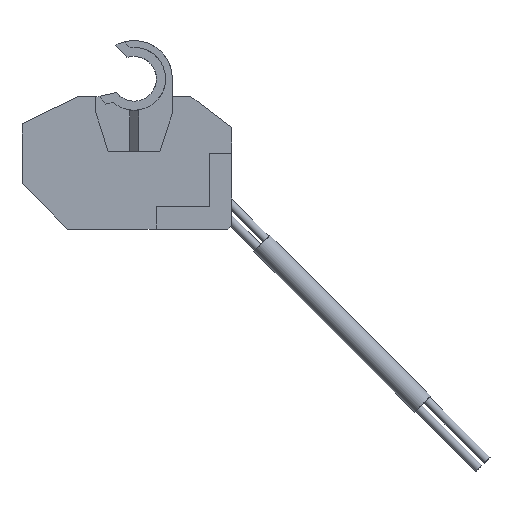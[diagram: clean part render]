
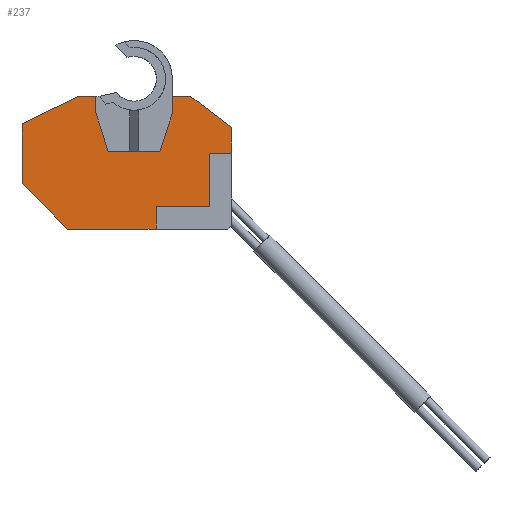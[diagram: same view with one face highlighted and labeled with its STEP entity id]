
A CAD part, left-side view. The second image highlights one B-rep face of the part: STEP entity #237.
In plain terms, the highlighted planar face has unit normal (-1, 0, 0).
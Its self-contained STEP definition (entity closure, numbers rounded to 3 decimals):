
#29 = CARTESIAN_POINT ( 'NONE',  ( -3.35, -5.05, -4.5 ) ) ;
#39 = VERTEX_POINT ( 'NONE', #452 ) ;
#43 = VECTOR ( 'NONE', #681, 1000. ) ;
#45 = EDGE_CURVE ( 'NONE', #3102, #1184, #148, .T. ) ;
#66 = VERTEX_POINT ( 'NONE', #464 ) ;
#73 = EDGE_CURVE ( 'NONE', #971, #2020, #229, .T. ) ;
#76 = DIRECTION ( 'NONE',  ( 0., -0.306, 0.952 ) ) ;
#112 = LINE ( 'NONE', #1210, #43 ) ;
#148 = LINE ( 'NONE', #2502, #386 ) ;
#225 = LINE ( 'NONE', #1304, #3144 ) ;
#228 = CARTESIAN_POINT ( 'NONE',  ( -3.35, -3.41, -9.6 ) ) ;
#229 = LINE ( 'NONE', #946, #907 ) ;
#237 = ADVANCED_FACE ( 'NONE', ( #2694 ), #1143, .T. ) ;
#253 = CARTESIAN_POINT ( 'NONE',  ( -3.35, 5.05, -2.35 ) ) ;
#309 = EDGE_CURVE ( 'NONE', #1684, #979, #3043, .T. ) ;
#354 = VECTOR ( 'NONE', #1991, 1000. ) ;
#374 = CARTESIAN_POINT ( 'NONE',  ( -3.35, 14.8, -19.85 ) ) ;
#386 = VECTOR ( 'NONE', #1478, 1000. ) ;
#392 = EDGE_CURVE ( 'NONE', #66, #2648, #1830, .T. ) ;
#415 = DIRECTION ( 'NONE',  ( 0., -0.707, -0.707 ) ) ;
#433 = VECTOR ( 'NONE', #1255, 1000. ) ;
#438 = LINE ( 'NONE', #1455, #2698 ) ;
#452 = CARTESIAN_POINT ( 'NONE',  ( -3.35, -12.9, -6.419 ) ) ;
#464 = CARTESIAN_POINT ( 'NONE',  ( -3.35, 3.41, -9.6 ) ) ;
#471 = EDGE_CURVE ( 'NONE', #941, #1271, #2545, .T. ) ;
#532 = LINE ( 'NONE', #1827, #1125 ) ;
#578 = ORIENTED_EDGE ( 'NONE', *, *, #471, .F. ) ;
#619 = VERTEX_POINT ( 'NONE', #29 ) ;
#633 = VECTOR ( 'NONE', #798, 1000. ) ;
#649 = CARTESIAN_POINT ( 'NONE',  ( -3.35, 7.5, -2.35 ) ) ;
#650 = VERTEX_POINT ( 'NONE', #2317 ) ;
#669 = EDGE_CURVE ( 'NONE', #2168, #1748, #2178, .T. ) ;
#676 = VECTOR ( 'NONE', #76, 1000. ) ;
#681 = DIRECTION ( 'NONE',  ( 0., 0., -1. ) ) ;
#682 = VECTOR ( 'NONE', #415, 1000. ) ;
#702 = CARTESIAN_POINT ( 'NONE',  ( -3.35, -9.9, -9.85 ) ) ;
#713 = LINE ( 'NONE', #1054, #633 ) ;
#732 = VERTEX_POINT ( 'NONE', #2028 ) ;
#744 = ORIENTED_EDGE ( 'NONE', *, *, #309, .F. ) ;
#761 = LINE ( 'NONE', #1879, #833 ) ;
#796 = VECTOR ( 'NONE', #2969, 1000. ) ;
#797 = EDGE_CURVE ( 'NONE', #732, #971, #713, .T. ) ;
#798 = DIRECTION ( 'NONE',  ( 0., 1., 0. ) ) ;
#833 = VECTOR ( 'NONE', #2468, 1000. ) ;
#859 = CARTESIAN_POINT ( 'NONE',  ( -3.35, 5.05, -2.35 ) ) ;
#862 = CARTESIAN_POINT ( 'NONE',  ( -3.35, 5.05, -4.5 ) ) ;
#905 = EDGE_CURVE ( 'NONE', #2648, #619, #1342, .T. ) ;
#907 = VECTOR ( 'NONE', #1958, 1000. ) ;
#934 = ORIENTED_EDGE ( 'NONE', *, *, #2706, .T. ) ;
#941 = VERTEX_POINT ( 'NONE', #859 ) ;
#946 = CARTESIAN_POINT ( 'NONE',  ( -3.35, -2.9, -19.85 ) ) ;
#971 = VERTEX_POINT ( 'NONE', #1635 ) ;
#974 = CARTESIAN_POINT ( 'NONE',  ( -3.35, 5.05, -4.5 ) ) ;
#979 = VERTEX_POINT ( 'NONE', #1360 ) ;
#1002 = VECTOR ( 'NONE', #1676, 1000. ) ;
#1005 = EDGE_CURVE ( 'NONE', #1404, #2020, #761, .T. ) ;
#1014 = ORIENTED_EDGE ( 'NONE', *, *, #2271, .F. ) ;
#1041 = EDGE_CURVE ( 'NONE', #650, #1404, #2226, .T. ) ;
#1054 = CARTESIAN_POINT ( 'NONE',  ( -3.35, 14.8, -16.85 ) ) ;
#1057 = ORIENTED_EDGE ( 'NONE', *, *, #1570, .F. ) ;
#1059 = ORIENTED_EDGE ( 'NONE', *, *, #669, .T. ) ;
#1067 = EDGE_CURVE ( 'NONE', #3102, #39, #438, .T. ) ;
#1083 = EDGE_CURVE ( 'NONE', #1184, #732, #112, .T. ) ;
#1117 = CARTESIAN_POINT ( 'NONE',  ( -3.35, 7.5, -2.35 ) ) ;
#1125 = VECTOR ( 'NONE', #2071, 1000. ) ;
#1143 = PLANE ( 'NONE',  #2141 ) ;
#1154 = ORIENTED_EDGE ( 'NONE', *, *, #1668, .F. ) ;
#1184 = VERTEX_POINT ( 'NONE', #702 ) ;
#1210 = CARTESIAN_POINT ( 'NONE',  ( -3.35, -9.9, -19.85 ) ) ;
#1255 = DIRECTION ( 'NONE',  ( 0., 0.897, -0.442 ) ) ;
#1271 = VERTEX_POINT ( 'NONE', #974 ) ;
#1294 = CARTESIAN_POINT ( 'NONE',  ( -3.35, 8.8, -19.85 ) ) ;
#1304 = CARTESIAN_POINT ( 'NONE',  ( -3.35, -7.5, -2.35 ) ) ;
#1342 = LINE ( 'NONE', #3170, #676 ) ;
#1360 = CARTESIAN_POINT ( 'NONE',  ( -3.35, -7.5, -2.35 ) ) ;
#1404 = VERTEX_POINT ( 'NONE', #1294 ) ;
#1455 = CARTESIAN_POINT ( 'NONE',  ( -3.35, -12.9, -19.85 ) ) ;
#1478 = DIRECTION ( 'NONE',  ( 0., 1., 0. ) ) ;
#1570 = EDGE_CURVE ( 'NONE', #619, #1684, #2736, .T. ) ;
#1603 = ORIENTED_EDGE ( 'NONE', *, *, #1083, .F. ) ;
#1635 = CARTESIAN_POINT ( 'NONE',  ( -3.35, -2.9, -16.85 ) ) ;
#1642 = CARTESIAN_POINT ( 'NONE',  ( -3.35, -12.9, -9.85 ) ) ;
#1668 = EDGE_CURVE ( 'NONE', #1271, #66, #2874, .T. ) ;
#1676 = DIRECTION ( 'NONE',  ( 0., -1., 0. ) ) ;
#1684 = VERTEX_POINT ( 'NONE', #3177 ) ;
#1748 = VERTEX_POINT ( 'NONE', #2968 ) ;
#1772 = ORIENTED_EDGE ( 'NONE', *, *, #1067, .T. ) ;
#1787 = ORIENTED_EDGE ( 'NONE', *, *, #1041, .T. ) ;
#1827 = CARTESIAN_POINT ( 'NONE',  ( -3.35, 14.8, -2.35 ) ) ;
#1830 = LINE ( 'NONE', #3016, #796 ) ;
#1863 = VECTOR ( 'NONE', #2019, 1000. ) ;
#1879 = CARTESIAN_POINT ( 'NONE',  ( -3.35, 14.8, -19.85 ) ) ;
#1958 = DIRECTION ( 'NONE',  ( 0., 0., -1. ) ) ;
#1970 = EDGE_CURVE ( 'NONE', #2168, #941, #532, .T. ) ;
#1975 = CARTESIAN_POINT ( 'NONE',  ( -3.35, 14.8, -19.85 ) ) ;
#1991 = DIRECTION ( 'NONE',  ( 0., 0., 1. ) ) ;
#2019 = DIRECTION ( 'NONE',  ( 0., 0., -1. ) ) ;
#2020 = VERTEX_POINT ( 'NONE', #2894 ) ;
#2028 = CARTESIAN_POINT ( 'NONE',  ( -3.35, -9.9, -16.85 ) ) ;
#2039 = ORIENTED_EDGE ( 'NONE', *, *, #73, .F. ) ;
#2069 = LINE ( 'NONE', #1975, #354 ) ;
#2071 = DIRECTION ( 'NONE',  ( 0., -1., 0. ) ) ;
#2094 = DIRECTION ( 'NONE',  ( 0., 0., 1. ) ) ;
#2113 = CARTESIAN_POINT ( 'NONE',  ( -3.35, -5.05, -4.5 ) ) ;
#2141 = AXIS2_PLACEMENT_3D ( 'NONE', #374, #3218, #2949 ) ;
#2153 = ORIENTED_EDGE ( 'NONE', *, *, #45, .F. ) ;
#2168 = VERTEX_POINT ( 'NONE', #649 ) ;
#2178 = LINE ( 'NONE', #1117, #433 ) ;
#2222 = VECTOR ( 'NONE', #2094, 1000. ) ;
#2226 = LINE ( 'NONE', #2963, #682 ) ;
#2271 = EDGE_CURVE ( 'NONE', #650, #1748, #2069, .T. ) ;
#2317 = CARTESIAN_POINT ( 'NONE',  ( -3.35, 14.8, -13.85 ) ) ;
#2328 = ORIENTED_EDGE ( 'NONE', *, *, #392, .F. ) ;
#2445 = CARTESIAN_POINT ( 'NONE',  ( -3.35, 14.8, -2.35 ) ) ;
#2454 = DIRECTION ( 'NONE',  ( 0., 0., 1. ) ) ;
#2468 = DIRECTION ( 'NONE',  ( 0., -1., 0. ) ) ;
#2502 = CARTESIAN_POINT ( 'NONE',  ( -3.35, 14.8, -9.85 ) ) ;
#2545 = LINE ( 'NONE', #253, #1863 ) ;
#2556 = DIRECTION ( 'NONE',  ( 0., 0.799, 0.602 ) ) ;
#2607 = ORIENTED_EDGE ( 'NONE', *, *, #1970, .F. ) ;
#2635 = DIRECTION ( 'NONE',  ( 0., -0.306, -0.952 ) ) ;
#2648 = VERTEX_POINT ( 'NONE', #228 ) ;
#2694 = FACE_OUTER_BOUND ( 'NONE', #2739, .T. ) ;
#2698 = VECTOR ( 'NONE', #2454, 1000. ) ;
#2706 = EDGE_CURVE ( 'NONE', #39, #979, #225, .T. ) ;
#2719 = ORIENTED_EDGE ( 'NONE', *, *, #905, .F. ) ;
#2736 = LINE ( 'NONE', #2113, #2222 ) ;
#2739 = EDGE_LOOP ( 'NONE', ( #1154, #578, #2607, #1059, #1014, #1787, #3291, #2039, #3128, #1603, #2153, #1772, #934, #744, #1057, #2719, #2328 ) ) ;
#2874 = LINE ( 'NONE', #862, #3052 ) ;
#2894 = CARTESIAN_POINT ( 'NONE',  ( -3.35, -2.9, -19.85 ) ) ;
#2949 = DIRECTION ( 'NONE',  ( 0., -1., 0. ) ) ;
#2963 = CARTESIAN_POINT ( 'NONE',  ( -3.35, 8.8, -19.85 ) ) ;
#2968 = CARTESIAN_POINT ( 'NONE',  ( -3.35, 14.8, -5.95 ) ) ;
#2969 = DIRECTION ( 'NONE',  ( 0., -1., 0. ) ) ;
#3016 = CARTESIAN_POINT ( 'NONE',  ( -3.35, 3.41, -9.6 ) ) ;
#3043 = LINE ( 'NONE', #2445, #1002 ) ;
#3052 = VECTOR ( 'NONE', #2635, 1000. ) ;
#3102 = VERTEX_POINT ( 'NONE', #1642 ) ;
#3128 = ORIENTED_EDGE ( 'NONE', *, *, #797, .F. ) ;
#3144 = VECTOR ( 'NONE', #2556, 1000. ) ;
#3170 = CARTESIAN_POINT ( 'NONE',  ( -3.35, -3.41, -9.6 ) ) ;
#3177 = CARTESIAN_POINT ( 'NONE',  ( -3.35, -5.05, -2.35 ) ) ;
#3218 = DIRECTION ( 'NONE',  ( -1., 0., 0. ) ) ;
#3291 = ORIENTED_EDGE ( 'NONE', *, *, #1005, .T. ) ;
